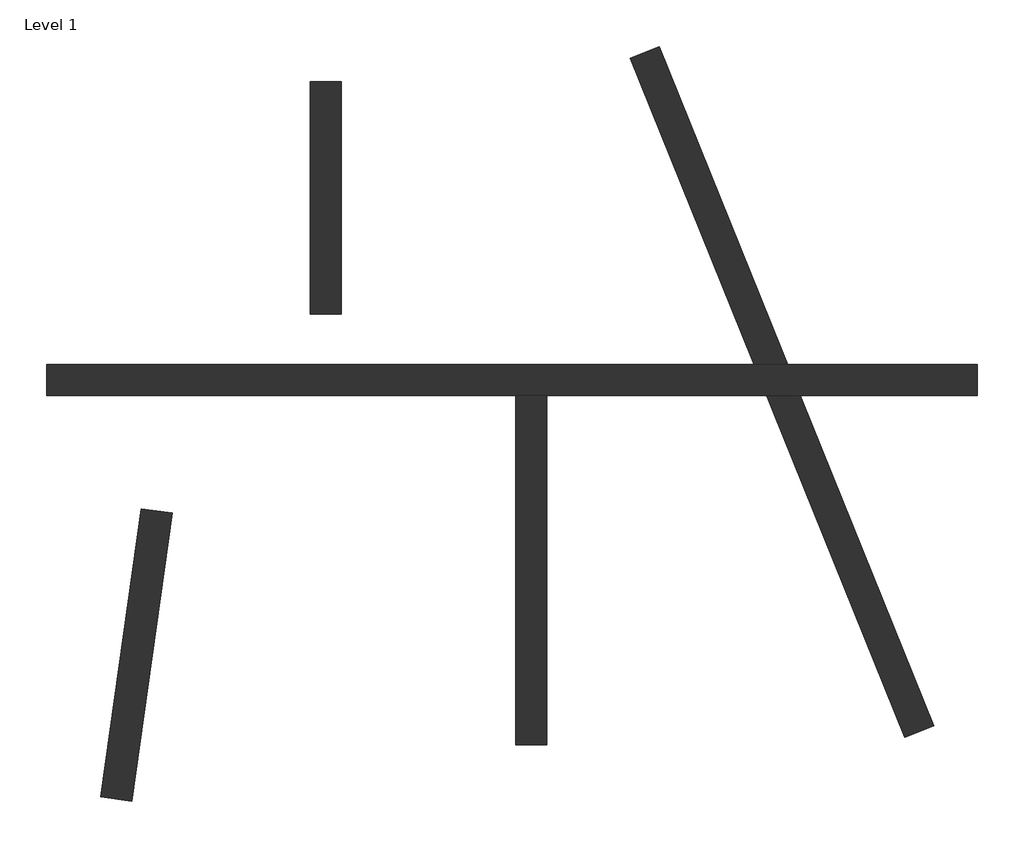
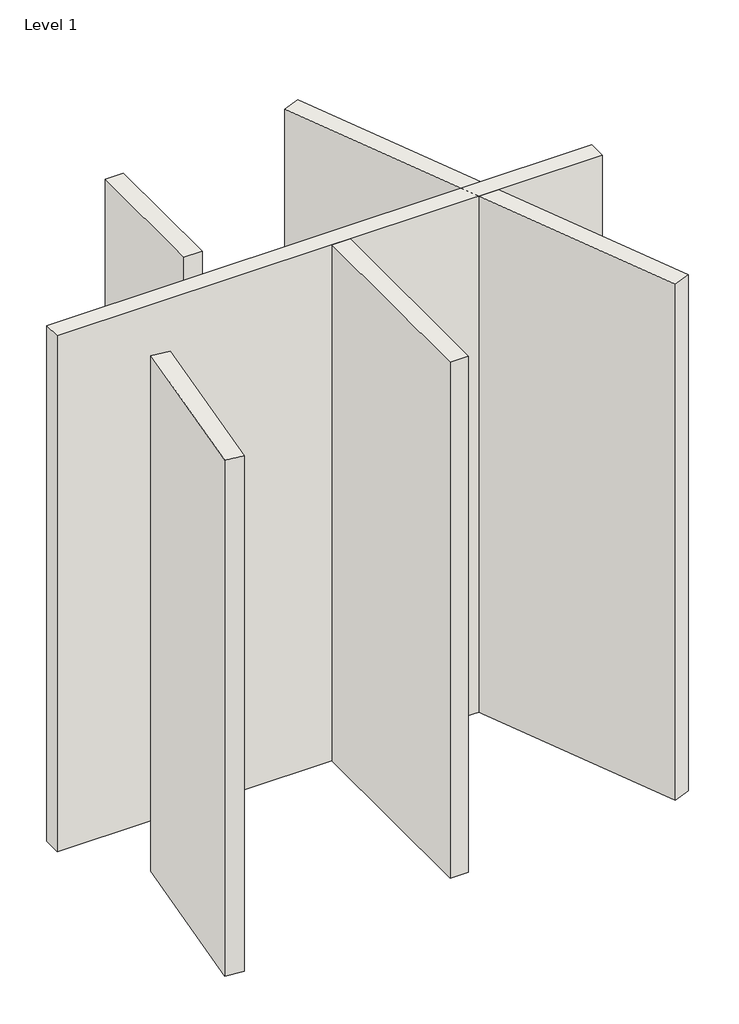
# One storey: 5 walls.
"""IFC4 building model written with IfcOpenShell, lengths in millimetres."""

from ifc_helpers import new_model, si_unit, origin, origin_with_axes, place, context, project, spatial, polyline, outline, extrude, faceted_brep, element, save

model = new_model("IFC4")

# Units and contexts
model_context = context("Model", 3, world=origin())
ifc_project = project(units=[si_unit("LENGTHUNIT", "METRE", prefix="MILLI")], contexts=[model_context])

# Site, building, storey
site = spatial("IfcSite", under=ifc_project)
building = spatial("IfcBuilding", under=site)
storey = spatial("IfcBuildingStorey", under=building, Name="Level 1", Elevation=0.0)

# Walls
placement = place(None, origin())
element("IfcWall", 1, ObjectType="Generic - 8\"", at=placement, inside=storey, context=model_context, shape_type="Brep", body=[
    faceted_brep([(-2311.6602902, -741.8838621, 0.0), (761.7397098, -741.8838621, 0.0), (964.9397098, -741.8838621, 0.0), (3784.3397098, -741.8838621, 0.0), (3784.3397098, -741.8838621, 6096.0), (964.9397098, -741.8838621, 6096.0), (761.7397098, -741.8838621, 6096.0), (-2311.6602902, -741.8838621, 6096.0), (-2311.6602902, -538.6838621, 0.0), (-2311.6602902, -538.6838621, 6096.0), (3784.3397098, -538.6838621, 6096.0), (3784.3397098, -538.6838621, 0.0)], [[[0, 1, 2, 3, 4, 5, 6, 7]], [[8, 9, 10, 11]], [[3, 2, 1, 0, 8, 11]], [[4, 3, 11, 10]], [[7, 6, 5, 4, 10, 9]], [[0, 7, 9, 8]]]),
])
element("IfcWall", 2, ObjectType="Generic - 8\"", at=placement, inside=storey, context=model_context, shape_type="SweptSolid", body=[
    extrude(outline(polyline([(-584.4602902, -208.4838621), (-584.4602902, 1315.5161379), (-381.2602902, 1315.5161379), (-381.2602902, -208.4838621), (-584.4602902, -208.4838621)])), origin_with_axes(), (0.0, 0.0, 1.0), 6096.0),
])
element("IfcWall", 3, ObjectType="Generic - 8\"", at=placement, inside=storey, context=model_context, shape_type="SweptSolid", body=[
    extrude(outline(polyline([(-1955.0715259, -3370.5225949), (-1689.9467686, -1484.061924), (-1488.724297, -1512.3418981), (-1753.8490544, -3398.8025691), (-1955.0715259, -3370.5225949)])), origin_with_axes(), (0.0, 0.0, 1.0), 6096.0),
])
element("IfcWall", 4, ObjectType="Generic - 8\"", at=placement, inside=storey, context=model_context, shape_type="SweptSolid", body=[
    extrude(outline(polyline([(3309.1378302, -2982.1054617), (1510.8014179, 1468.9333505), (1699.2051771, 1545.0534103), (3497.5415895, -2905.9854019), (3309.1378302, -2982.1054617)])), origin_with_axes(), (0.0, 0.0, 1.0), 6096.0),
])
element("IfcWall", 5, ObjectType="Generic - 8\"", at=placement, inside=storey, context=model_context, shape_type="SweptSolid", body=[
    extrude(outline(polyline([(761.7397098, -3030.4352604), (761.7397098, -741.8838621), (964.9397098, -741.8838621), (964.9397098, -3030.4352604), (761.7397098, -3030.4352604)])), origin_with_axes(), (0.0, 0.0, 1.0), 6096.0),
])

save(model, "model.ifc")
